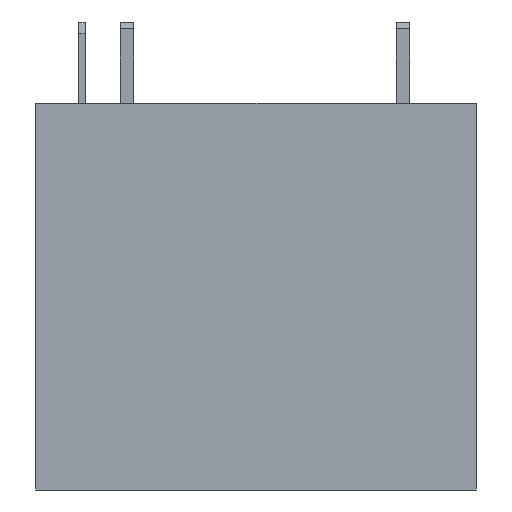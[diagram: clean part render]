
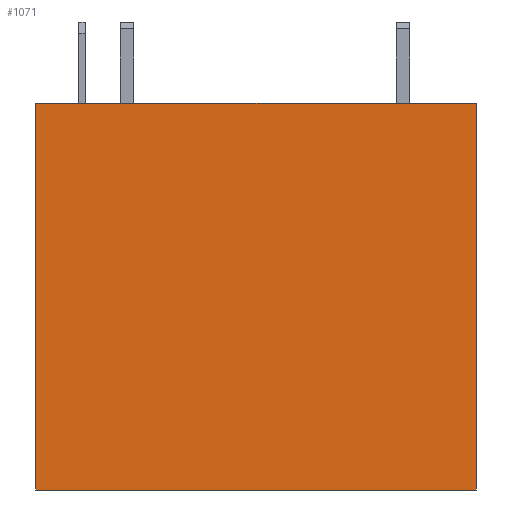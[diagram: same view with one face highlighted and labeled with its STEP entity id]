
A CAD part, front view. The second image highlights one B-rep face of the part: STEP entity #1071.
In plain terms, the highlighted planar face has unit normal (0, -1, 0).
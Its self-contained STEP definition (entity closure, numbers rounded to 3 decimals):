
#182 = PLANE('',#183);
#183 = AXIS2_PLACEMENT_3D('',#184,#185,#186);
#184 = CARTESIAN_POINT('',(9.75,8.,17.1));
#185 = DIRECTION('',(0.,0.,1.));
#186 = DIRECTION('',(1.,0.,0.));
#322 = EDGE_CURVE('',#323,#325,#327,.T.);
#323 = VERTEX_POINT('',#324);
#324 = CARTESIAN_POINT('',(0.,0.,17.1));
#325 = VERTEX_POINT('',#326);
#326 = CARTESIAN_POINT('',(19.5,0.,17.1));
#327 = SURFACE_CURVE('',#328,(#332,#339),.PCURVE_S1.);
#328 = LINE('',#329,#330);
#329 = CARTESIAN_POINT('',(0.,0.,17.1));
#330 = VECTOR('',#331,1.);
#331 = DIRECTION('',(1.,0.,0.));
#332 = PCURVE('',#182,#333);
#333 = DEFINITIONAL_REPRESENTATION('',(#334),#338);
#334 = LINE('',#335,#336);
#335 = CARTESIAN_POINT('',(-9.75,-8.));
#336 = VECTOR('',#337,1.);
#337 = DIRECTION('',(1.,0.));
#338 = ( GEOMETRIC_REPRESENTATION_CONTEXT(2) 
PARAMETRIC_REPRESENTATION_CONTEXT() REPRESENTATION_CONTEXT('2D SPACE',''
  ) );
#339 = PCURVE('',#340,#345);
#340 = PLANE('',#341);
#341 = AXIS2_PLACEMENT_3D('',#342,#343,#344);
#342 = CARTESIAN_POINT('',(0.,0.,0.));
#343 = DIRECTION('',(0.,1.,0.));
#344 = DIRECTION('',(1.,0.,0.));
#345 = DEFINITIONAL_REPRESENTATION('',(#346),#350);
#346 = LINE('',#347,#348);
#347 = CARTESIAN_POINT('',(0.,-17.1));
#348 = VECTOR('',#349,1.);
#349 = DIRECTION('',(1.,0.));
#350 = ( GEOMETRIC_REPRESENTATION_CONTEXT(2) 
PARAMETRIC_REPRESENTATION_CONTEXT() REPRESENTATION_CONTEXT('2D SPACE',''
  ) );
#368 = PLANE('',#369);
#369 = AXIS2_PLACEMENT_3D('',#370,#371,#372);
#370 = CARTESIAN_POINT('',(19.5,0.,0.));
#371 = DIRECTION('',(-1.,0.,0.));
#372 = DIRECTION('',(0.,1.,0.));
#422 = PLANE('',#423);
#423 = AXIS2_PLACEMENT_3D('',#424,#425,#426);
#424 = CARTESIAN_POINT('',(0.,16.,0.));
#425 = DIRECTION('',(1.,0.,0.));
#426 = DIRECTION('',(0.,-1.,0.));
#1071 = ADVANCED_FACE('',(#1072),#340,.F.);
#1072 = FACE_BOUND('',#1073,.F.);
#1073 = EDGE_LOOP('',(#1074,#1097,#1098,#1121));
#1074 = ORIENTED_EDGE('',*,*,#1075,.T.);
#1075 = EDGE_CURVE('',#1076,#323,#1078,.T.);
#1076 = VERTEX_POINT('',#1077);
#1077 = CARTESIAN_POINT('',(0.,0.,0.));
#1078 = SURFACE_CURVE('',#1079,(#1083,#1090),.PCURVE_S1.);
#1079 = LINE('',#1080,#1081);
#1080 = CARTESIAN_POINT('',(0.,0.,0.));
#1081 = VECTOR('',#1082,1.);
#1082 = DIRECTION('',(0.,0.,1.));
#1083 = PCURVE('',#340,#1084);
#1084 = DEFINITIONAL_REPRESENTATION('',(#1085),#1089);
#1085 = LINE('',#1086,#1087);
#1086 = CARTESIAN_POINT('',(0.,0.));
#1087 = VECTOR('',#1088,1.);
#1088 = DIRECTION('',(0.,-1.));
#1089 = ( GEOMETRIC_REPRESENTATION_CONTEXT(2) 
PARAMETRIC_REPRESENTATION_CONTEXT() REPRESENTATION_CONTEXT('2D SPACE',''
  ) );
#1090 = PCURVE('',#422,#1091);
#1091 = DEFINITIONAL_REPRESENTATION('',(#1092),#1096);
#1092 = LINE('',#1093,#1094);
#1093 = CARTESIAN_POINT('',(16.,0.));
#1094 = VECTOR('',#1095,1.);
#1095 = DIRECTION('',(0.,-1.));
#1096 = ( GEOMETRIC_REPRESENTATION_CONTEXT(2) 
PARAMETRIC_REPRESENTATION_CONTEXT() REPRESENTATION_CONTEXT('2D SPACE',''
  ) );
#1097 = ORIENTED_EDGE('',*,*,#322,.T.);
#1098 = ORIENTED_EDGE('',*,*,#1099,.F.);
#1099 = EDGE_CURVE('',#1100,#325,#1102,.T.);
#1100 = VERTEX_POINT('',#1101);
#1101 = CARTESIAN_POINT('',(19.5,0.,0.));
#1102 = SURFACE_CURVE('',#1103,(#1107,#1114),.PCURVE_S1.);
#1103 = LINE('',#1104,#1105);
#1104 = CARTESIAN_POINT('',(19.5,0.,0.));
#1105 = VECTOR('',#1106,1.);
#1106 = DIRECTION('',(0.,0.,1.));
#1107 = PCURVE('',#340,#1108);
#1108 = DEFINITIONAL_REPRESENTATION('',(#1109),#1113);
#1109 = LINE('',#1110,#1111);
#1110 = CARTESIAN_POINT('',(19.5,0.));
#1111 = VECTOR('',#1112,1.);
#1112 = DIRECTION('',(0.,-1.));
#1113 = ( GEOMETRIC_REPRESENTATION_CONTEXT(2) 
PARAMETRIC_REPRESENTATION_CONTEXT() REPRESENTATION_CONTEXT('2D SPACE',''
  ) );
#1114 = PCURVE('',#368,#1115);
#1115 = DEFINITIONAL_REPRESENTATION('',(#1116),#1120);
#1116 = LINE('',#1117,#1118);
#1117 = CARTESIAN_POINT('',(0.,0.));
#1118 = VECTOR('',#1119,1.);
#1119 = DIRECTION('',(0.,-1.));
#1120 = ( GEOMETRIC_REPRESENTATION_CONTEXT(2) 
PARAMETRIC_REPRESENTATION_CONTEXT() REPRESENTATION_CONTEXT('2D SPACE',''
  ) );
#1121 = ORIENTED_EDGE('',*,*,#1122,.F.);
#1122 = EDGE_CURVE('',#1076,#1100,#1123,.T.);
#1123 = SURFACE_CURVE('',#1124,(#1128,#1135),.PCURVE_S1.);
#1124 = LINE('',#1125,#1126);
#1125 = CARTESIAN_POINT('',(0.,0.,0.));
#1126 = VECTOR('',#1127,1.);
#1127 = DIRECTION('',(1.,0.,0.));
#1128 = PCURVE('',#340,#1129);
#1129 = DEFINITIONAL_REPRESENTATION('',(#1130),#1134);
#1130 = LINE('',#1131,#1132);
#1131 = CARTESIAN_POINT('',(0.,0.));
#1132 = VECTOR('',#1133,1.);
#1133 = DIRECTION('',(1.,0.));
#1134 = ( GEOMETRIC_REPRESENTATION_CONTEXT(2) 
PARAMETRIC_REPRESENTATION_CONTEXT() REPRESENTATION_CONTEXT('2D SPACE',''
  ) );
#1135 = PCURVE('',#1136,#1141);
#1136 = PLANE('',#1137);
#1137 = AXIS2_PLACEMENT_3D('',#1138,#1139,#1140);
#1138 = CARTESIAN_POINT('',(9.75,8.,0.));
#1139 = DIRECTION('',(0.,0.,1.));
#1140 = DIRECTION('',(1.,0.,0.));
#1141 = DEFINITIONAL_REPRESENTATION('',(#1142),#1146);
#1142 = LINE('',#1143,#1144);
#1143 = CARTESIAN_POINT('',(-9.75,-8.));
#1144 = VECTOR('',#1145,1.);
#1145 = DIRECTION('',(1.,0.));
#1146 = ( GEOMETRIC_REPRESENTATION_CONTEXT(2) 
PARAMETRIC_REPRESENTATION_CONTEXT() REPRESENTATION_CONTEXT('2D SPACE',''
  ) );
